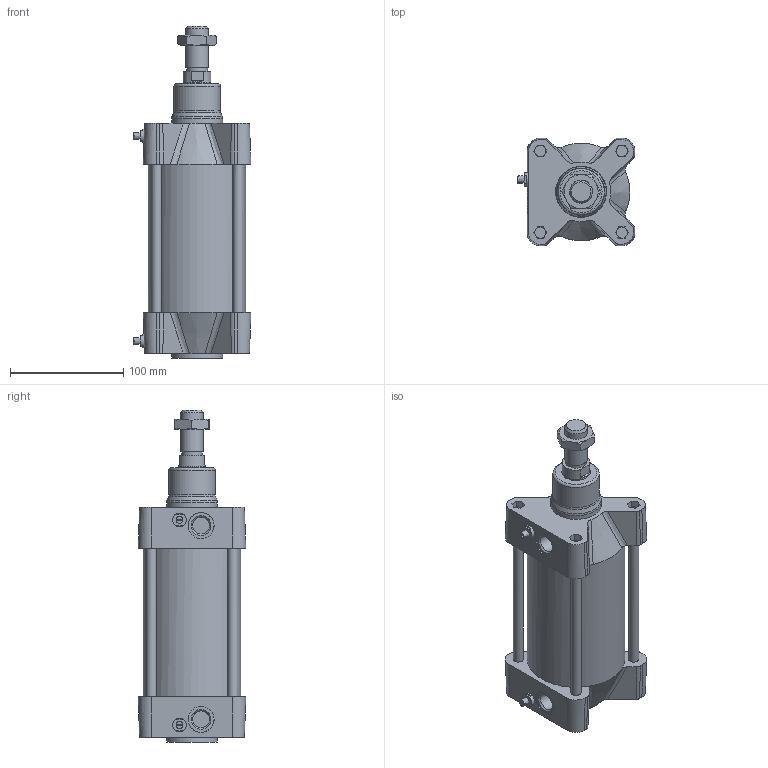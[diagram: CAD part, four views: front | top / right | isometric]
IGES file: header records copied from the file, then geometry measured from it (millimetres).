
Global section: file name: 1393_080_0075_01; native system: Autodesk Inventor 2014; preprocessor: unknown; author: A. Manieri; date: 20151130.150723; units: millimetre
Bounding box: 104 x 95 x 293 mm (x, y, z)
Volume: 1000693.6 mm3; surface area: 194674.7 mm2
Topology: 3 solids, 5 shells, 233 faces, 578 edges, 377 vertices
Faces by surface type: bspline 233
